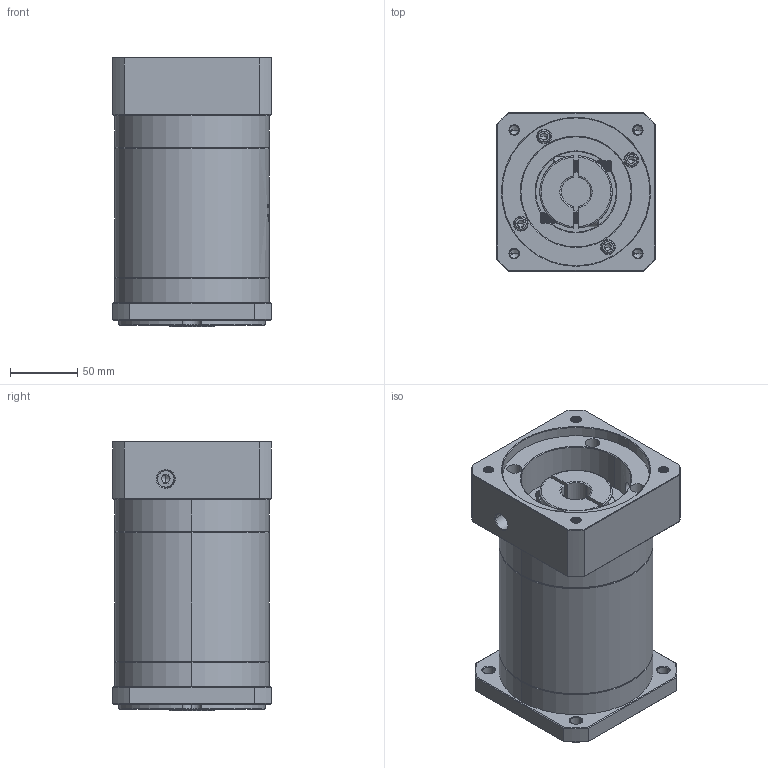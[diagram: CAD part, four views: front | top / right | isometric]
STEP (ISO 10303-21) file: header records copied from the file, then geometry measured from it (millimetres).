
FILE_DESCRIPTION (( 'STEP AP214' ), '1' );
FILE_NAME ('ZF120A-K25-L3-22-110-130-M8.step', '2023-03-07T09:39:21', ( '' ), ( '' ), 'SwSTEP 2.0', 'SolidWorks 2016', '' );
FILE_SCHEMA (( 'AUTOMOTIVE_DESIGN' ));
Length unit declared in the file: millimetre
Products named in the file (1): ZF120A-K25-L3-22-110-130-M8
Bounding box: 118 x 118 x 200.5 mm (x, y, z)
Volume: 1991099 mm3; surface area: 184091.8 mm2
Topology: 6 solids, 6 shells, 1904 faces, 5009 edges, 3203 vertices
Faces by surface type: plane 850, cylinder 389, cone 333, bspline 332
Entity records: 102102 total; most frequent: CARTESIAN_POINT 37734, ORIENTED_EDGE 9962, DIRECTION 7760, EDGE_CURVE 4981, VERTEX_POINT 3203, VECTOR 2706, LINE 2706, AXIS2_PLACEMENT_3D 2527
